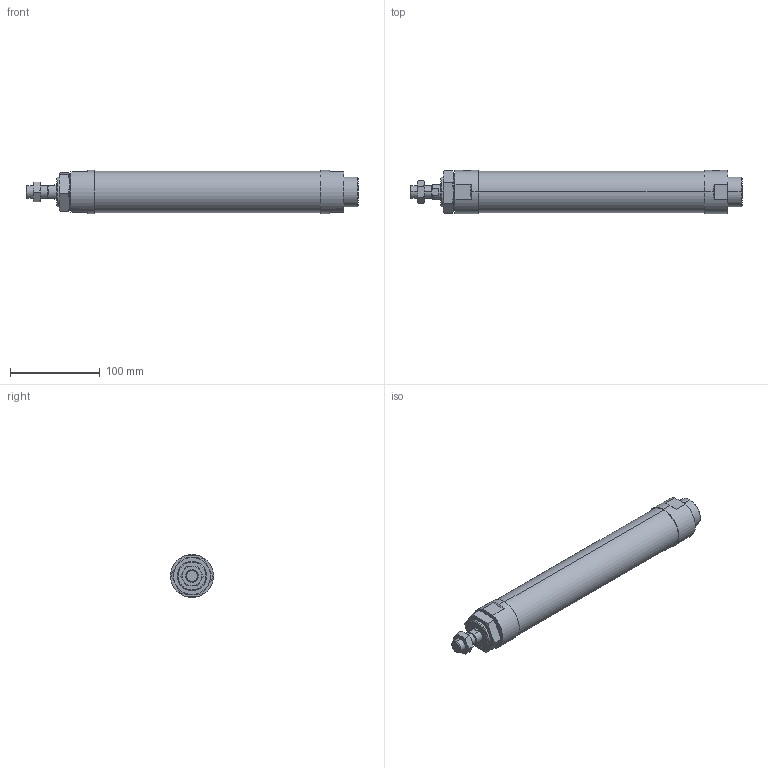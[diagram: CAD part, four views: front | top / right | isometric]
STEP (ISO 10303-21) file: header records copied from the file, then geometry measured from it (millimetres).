
FILE_DESCRIPTION (( 'STEP AP203' ), '1' );
FILE_NAME ('J#2-40-200-N.STEP', '2016-03-08T08:05:29', ( '' ), ( '' ), 'SwSTEP 2.0', 'SolidWorks 2014', '' );
FILE_SCHEMA (( 'CONFIG_CONTROL_DESIGN' ));
Length unit declared in the file: millimetre
Products named in the file (4): J#2-40-200-N; J#2-40-200
Assembly tree (3 placements, depth 2):
  J#2-40-200-N
    J#2-40-200
    (unnamed)
    (unnamed)
Bounding box: 369 x 48 x 48 mm (x, y, z)
Volume: 550199.7 mm3; surface area: 59338.8 mm2
Topology: 3 solids, 3 shells, 94 faces, 210 edges, 125 vertices
Faces by surface type: plane 33, torus 24, cylinder 22, cone 15
Entity records: 3435 total; most frequent: CARTESIAN_POINT 1022, DIRECTION 421, ORIENTED_EDGE 412, EDGE_CURVE 206, AXIS2_PLACEMENT_3D 178, VERTEX_POINT 125, EDGE_LOOP 105, ADVANCED_FACE 94
